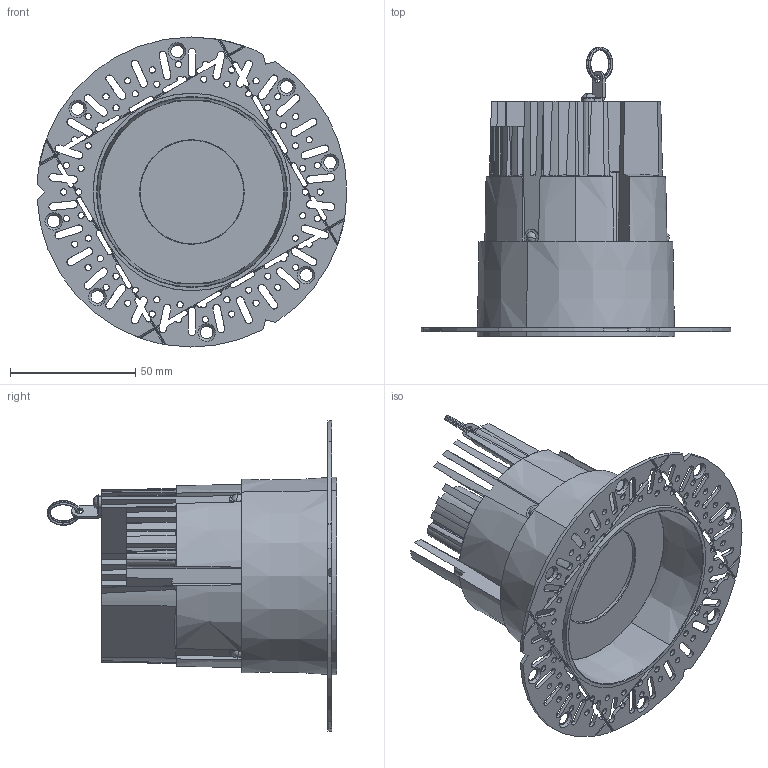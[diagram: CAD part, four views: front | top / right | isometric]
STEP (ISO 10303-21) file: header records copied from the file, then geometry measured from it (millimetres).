
FILE_DESCRIPTION (( 'STEP AP214' ), '1' );
FILE_NAME ('WG-H-PTD3-FA-RPT-RRPH.STEP', '2023-02-17T19:36:00', ( '' ), ( '' ), 'SwSTEP 2.0', 'SolidWorks 2021', '' );
FILE_SCHEMA (( 'AUTOMOTIVE_DESIGN' ));
Length unit declared in the file: millimetre
Products named in the file (11): WG-H-PTD3-FA-RPT-RRPH; 100 ProTools heat sink aircraft wire loop 2019-09-26; 370-10013-200; 720-10044-300; GDL PLUS heat sink aircraft wire L-bracket; 720-10058-304; Part1^WG-H-PTD3-FA-RPT-_-__; 760-10049-400; 310-10082-200_310-10082-200; 720-10042-300; WG-CV-PTD3-RRPH-__-_
Assembly tree (11 placements, depth 3):
  WG-H-PTD3-FA-RPT-RRPH
    720-10042-300
    WG-CV-PTD3-RRPH-__-_
      720-10058-304
      760-10049-400
    720-10044-300
    370-10013-200  x3
    310-10082-200_310-10082-200
    GDL PLUS heat sink aircraft wire L-bracket
    100 ProTools heat sink aircraft wire loop 2019-09-26
  Part1^WG-H-PTD3-FA-RPT-_-__
Bounding box: 123.93 x 115.7 x 124 mm (x, y, z)
Volume: 120773 mm3; surface area: 113603.6 mm2
Topology: 10 solids, 10 shells, 1158 faces, 3347 edges, 2145 vertices
Faces by surface type: plane 510, cone 386, cylinder 151, torus 43, bspline 37, sphere 31
Entity records: 40736 total; most frequent: CARTESIAN_POINT 10522, ORIENTED_EDGE 6566, DIRECTION 6120, EDGE_CURVE 3283, AXIS2_PLACEMENT_3D 2311, VERTEX_POINT 2119, VECTOR 1498, LINE 1498
